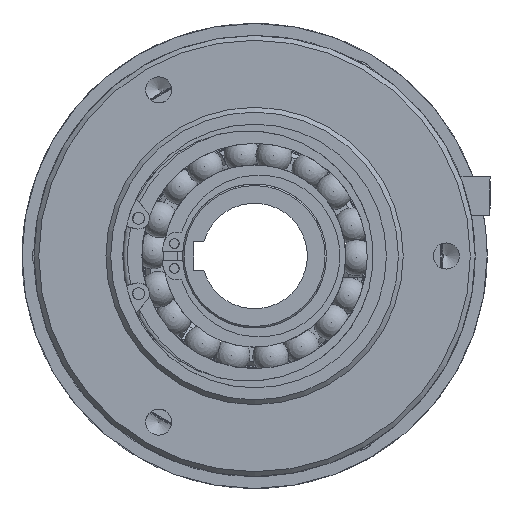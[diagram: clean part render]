
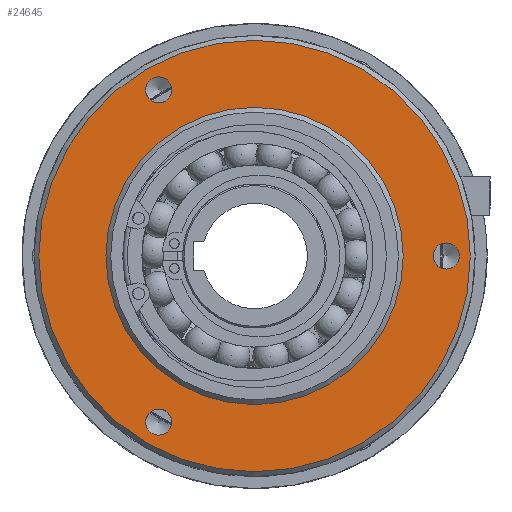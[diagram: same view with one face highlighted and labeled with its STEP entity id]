
A CAD part, left-side view. The second image highlights one B-rep face of the part: STEP entity #24645.
In plain terms, the highlighted planar face has unit normal (-1, 0, 0).
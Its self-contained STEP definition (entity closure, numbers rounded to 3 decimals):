
#1325=FACE_BOUND('',#7898,.T.);
#1326=FACE_BOUND('',#7899,.T.);
#1327=FACE_BOUND('',#7900,.T.);
#1328=FACE_BOUND('',#7901,.T.);
#1937=PLANE('',#25811);
#6611=FACE_OUTER_BOUND('',#7897,.T.);
#7897=EDGE_LOOP('',(#19549));
#7898=EDGE_LOOP('',(#19550,#19551));
#7899=EDGE_LOOP('',(#19552,#19553));
#7900=EDGE_LOOP('',(#19554,#19555));
#7901=EDGE_LOOP('',(#19556,#19557));
#8747=CIRCLE('',#25810,45.);
#8748=CIRCLE('',#25812,31.);
#8749=CIRCLE('',#25813,31.);
#8750=CIRCLE('',#25814,2.73);
#8751=CIRCLE('',#25815,2.73);
#8752=CIRCLE('',#25816,2.73);
#8753=CIRCLE('',#25817,2.73);
#8754=CIRCLE('',#25818,2.73);
#8755=CIRCLE('',#25819,2.73);
#10880=VERTEX_POINT('',#46090);
#10881=VERTEX_POINT('',#46094);
#10882=VERTEX_POINT('',#46095);
#10883=VERTEX_POINT('',#46098);
#10884=VERTEX_POINT('',#46099);
#10885=VERTEX_POINT('',#46102);
#10886=VERTEX_POINT('',#46103);
#10887=VERTEX_POINT('',#46106);
#10888=VERTEX_POINT('',#46107);
#14016=EDGE_CURVE('',#10880,#10880,#8747,.T.);
#14017=EDGE_CURVE('',#10881,#10882,#8748,.T.);
#14018=EDGE_CURVE('',#10882,#10881,#8749,.T.);
#14019=EDGE_CURVE('',#10883,#10884,#8750,.T.);
#14020=EDGE_CURVE('',#10884,#10883,#8751,.T.);
#14021=EDGE_CURVE('',#10885,#10886,#8752,.T.);
#14022=EDGE_CURVE('',#10886,#10885,#8753,.T.);
#14023=EDGE_CURVE('',#10887,#10888,#8754,.T.);
#14024=EDGE_CURVE('',#10888,#10887,#8755,.T.);
#19549=ORIENTED_EDGE('',*,*,#14016,.F.);
#19550=ORIENTED_EDGE('',*,*,#14017,.T.);
#19551=ORIENTED_EDGE('',*,*,#14018,.T.);
#19552=ORIENTED_EDGE('',*,*,#14019,.T.);
#19553=ORIENTED_EDGE('',*,*,#14020,.T.);
#19554=ORIENTED_EDGE('',*,*,#14021,.T.);
#19555=ORIENTED_EDGE('',*,*,#14022,.T.);
#19556=ORIENTED_EDGE('',*,*,#14023,.T.);
#19557=ORIENTED_EDGE('',*,*,#14024,.T.);
#24645=ADVANCED_FACE('',(#6611,#1325,#1326,#1327,#1328),#1937,.T.);
#25810=AXIS2_PLACEMENT_3D('',#46092,#29633,#29634);
#25811=AXIS2_PLACEMENT_3D('',#46093,#29635,#29636);
#25812=AXIS2_PLACEMENT_3D('',#46096,#29637,#29638);
#25813=AXIS2_PLACEMENT_3D('',#46097,#29639,#29640);
#25814=AXIS2_PLACEMENT_3D('',#46100,#29641,#29642);
#25815=AXIS2_PLACEMENT_3D('',#46101,#29643,#29644);
#25816=AXIS2_PLACEMENT_3D('',#46104,#29645,#29646);
#25817=AXIS2_PLACEMENT_3D('',#46105,#29647,#29648);
#25818=AXIS2_PLACEMENT_3D('',#46108,#29649,#29650);
#25819=AXIS2_PLACEMENT_3D('',#46109,#29651,#29652);
#29633=DIRECTION('center_axis',(1.,0.,0.));
#29634=DIRECTION('ref_axis',(0.,0.,
1.));
#29635=DIRECTION('center_axis',(-1.,0.,0.));
#29636=DIRECTION('ref_axis',(0.,1.,0.));
#29637=DIRECTION('center_axis',(1.,0.,0.));
#29638=DIRECTION('ref_axis',(0.,0.,
-1.));
#29639=DIRECTION('center_axis',(1.,0.,0.));
#29640=DIRECTION('ref_axis',(0.,0.,
-1.));
#29641=DIRECTION('center_axis',(1.,0.,0.));
#29642=DIRECTION('ref_axis',(0.,1.,0.));
#29643=DIRECTION('center_axis',(1.,0.,0.));
#29644=DIRECTION('ref_axis',(0.,1.,0.));
#29645=DIRECTION('center_axis',(1.,0.,0.));
#29646=DIRECTION('ref_axis',(0.,-0.5,0.866));
#29647=DIRECTION('center_axis',(1.,0.,0.));
#29648=DIRECTION('ref_axis',(0.,-0.5,0.866));
#29649=DIRECTION('center_axis',(1.,0.,0.));
#29650=DIRECTION('ref_axis',(0.,-0.5,-0.866));
#29651=DIRECTION('center_axis',(1.,0.,0.));
#29652=DIRECTION('ref_axis',(0.,-0.5,-0.866));
#46090=CARTESIAN_POINT('',(-78.,0.,-45.));
#46092=CARTESIAN_POINT('Origin',(-78.,0.,
0.));
#46093=CARTESIAN_POINT('Origin',(-78.,0.,
-38.5));
#46094=CARTESIAN_POINT('',(-78.,0.,-31.));
#46095=CARTESIAN_POINT('',(-78.,0.,31.));
#46096=CARTESIAN_POINT('Origin',(-78.,0.,
0.));
#46097=CARTESIAN_POINT('Origin',(-78.,0.,
0.));
#46098=CARTESIAN_POINT('',(-78.,22.73,-34.641));
#46099=CARTESIAN_POINT('',(-78.,17.271,-34.641));
#46100=CARTESIAN_POINT('Origin',(-78.,20.,-34.641));
#46101=CARTESIAN_POINT('Origin',(-78.,20.,-34.641));
#46102=CARTESIAN_POINT('',(-78.,18.635,37.005));
#46103=CARTESIAN_POINT('',(-78.,21.365,32.277));
#46104=CARTESIAN_POINT('Origin',(-78.,20.,34.641));
#46105=CARTESIAN_POINT('Origin',(-78.,20.,34.641));
#46106=CARTESIAN_POINT('',(-78.,-41.365,-2.364));
#46107=CARTESIAN_POINT('',(-78.,-38.635,2.364));
#46108=CARTESIAN_POINT('Origin',(-78.,-40.,0.));
#46109=CARTESIAN_POINT('Origin',(-78.,-40.,0.));
